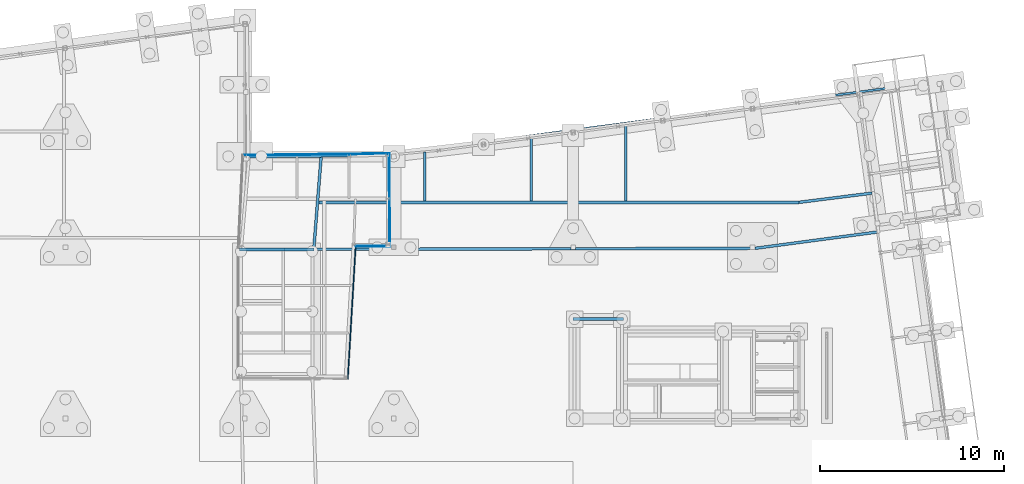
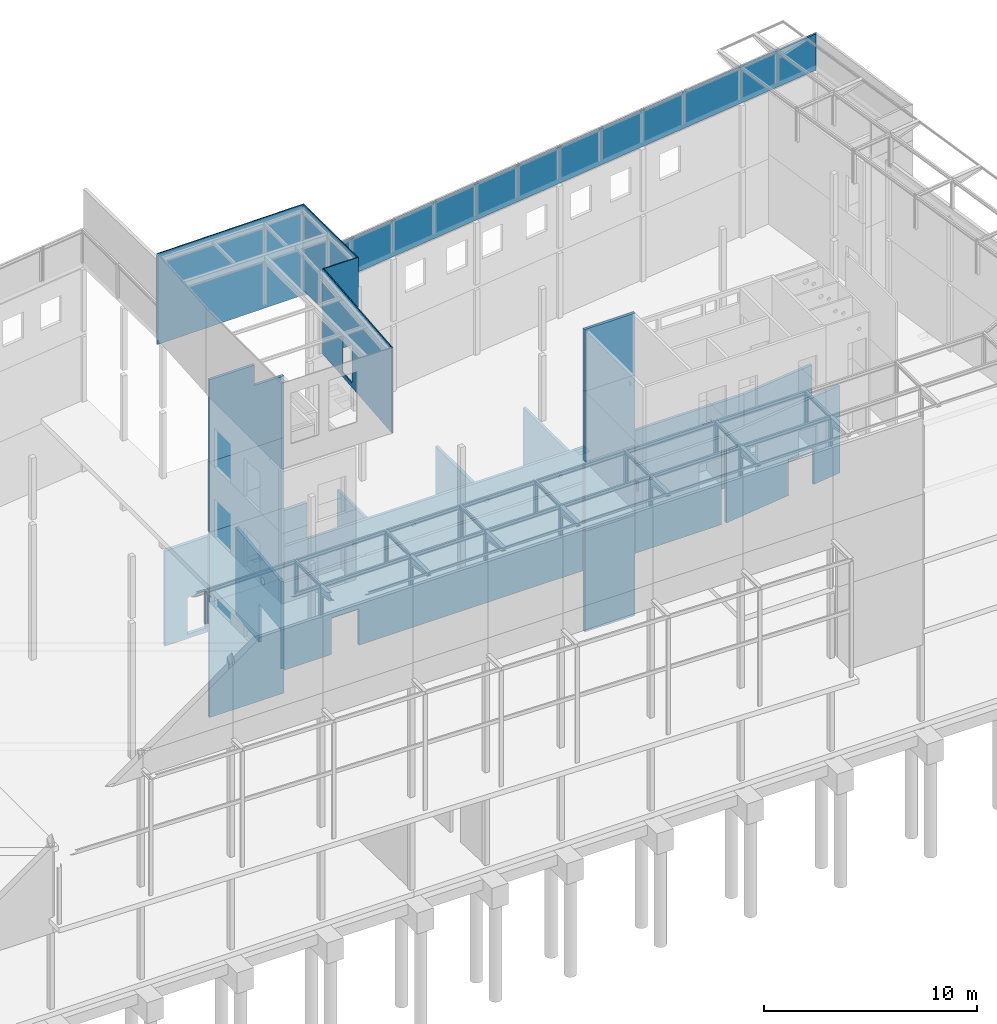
# One storey, part 77 of 82: 22 walls.
"""IFC2X3 building model written with IfcOpenShell, lengths in millimetres."""

from ifc_helpers import new_model, si_unit, frame, frame_2d, origin_with_axes, place, context, subcontext, project, spatial, polyline, rectangle, circle, outline, extrude, boolean, clip, halfspace, material, layer, layer_set, layer_usage, type_object, element, save


model = new_model("IFC2X3")

# Units and contexts
model_context = context("Model", 3, precision=1e-05, world=origin_with_axes())
body_context = subcontext(model_context, "Body", "Model", "MODEL_VIEW")
ifc_project = project(units=[si_unit("LENGTHUNIT", "METRE", prefix="MILLI"), si_unit("AREAUNIT", "SQUARE_METRE"), si_unit("VOLUMEUNIT", "CUBIC_METRE"), si_unit("MASSUNIT", "GRAM", prefix="KILO"), si_unit("TIMEUNIT", "SECOND"), si_unit("PLANEANGLEUNIT", "RADIAN"), si_unit("SOLIDANGLEUNIT", "STERADIAN"), si_unit("THERMODYNAMICTEMPERATUREUNIT", "DEGREE_CELSIUS"), si_unit("LUMINOUSINTENSITYUNIT", "LUMEN")], contexts=[model_context])

# Site, building, storey
site_placement = place(None, origin_with_axes())
site = spatial("IfcSite", under=ifc_project, at=site_placement, Name="Undefined", CompositionType="ELEMENT")
building_placement = place(site_placement, origin_with_axes())
building = spatial("IfcBuilding", under=site, at=building_placement, Name="Undefined", CompositionType="ELEMENT")
storey_placement = place(building_placement, origin_with_axes())
storey = spatial("IfcBuildingStorey", under=building, at=storey_placement, Name="Undefined", CompositionType="ELEMENT", Elevation=0.0)

# Walls
ifc_material_1 = material(Name="CONCRETE/C25/30")
ifc_layer_1 = layer(ifc_material_1, 150.0)
ifc_layer_set_1 = layer_set([ifc_layer_1], Name="Wall: Insitu CONCRETE/C25/30")
ifc_layer_usage_1 = layer_usage(ifc_layer_set_1, "AXIS2", "POSITIVE", -75.0)
wall_type_1 = type_object("IfcWallType", Name="4025*150", PredefinedType="NOTDEFINED")
wall_1_placement = place(storey_placement, frame((49824.9999999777, 14699.9999999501, 9305.0), z_axis=(0.0, 0.0, 1.0), x_axis=(-1.0, 0.0, 0.0)))
element("IfcWallStandardCase", 1, at=wall_1_placement, inside=storey, type_object=wall_type_1, material=ifc_layer_usage_1, Name="VOILE_15CM", ObjectType="4025*150", context=body_context, shape_type="SweptSolid", body=[
    extrude(rectangle(XDim=2725.00000000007, YDim=150.0, at=frame_2d((0.0, 1362.50000000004), x_axis=(0.0, -1.0))), frame((0.0, 0.0, 0.0), z_axis=(0.0, 0.0, 1.0), x_axis=(-2.77555756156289e-17, -1.0, 0.0)), (0.0, 0.0, 1.0), 4025.0),
])
ifc_layer_usage_2 = layer_usage(ifc_layer_set_1, "AXIS2", "POSITIVE", -75.0)
wall_2_placement = place(storey_placement, frame((32998.7356613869, 18490.0686918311, 9305.0), z_axis=(0.0, 0.0, 1.0), x_axis=(-1.0, 0.0, 0.0)))
element("IfcWallStandardCase", 2, at=wall_2_placement, inside=storey, type_object=wall_type_1, material=ifc_layer_usage_2, Name="VOILE_15CM", ObjectType="4025*150", context=body_context, shape_type="SweptSolid", body=[
    extrude(rectangle(XDim=4024.97200000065, YDim=150.0, at=frame_2d((0.0, 2012.48600000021), x_axis=(0.0, -1.0))), frame((0.0, 0.0, 0.0), z_axis=(0.0, 0.0, 1.0), x_axis=(-2.77555756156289e-17, -1.0, 0.0)), (0.0, 0.0, 1.0), 4025.0),
])
ifc_layer_usage_3 = layer_usage(ifc_layer_set_1, "AXIS2", "POSITIVE", -75.0)
wall_type_2 = type_object("IfcWallType", Name="4005*150", PredefinedType="NOTDEFINED")
wall_3_placement = place(storey_placement, frame((49824.9999999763, 14699.9999999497, 5300.0), z_axis=(0.0, 0.0, 1.0), x_axis=(-1.0, 0.0, 0.0)))
element("IfcWallStandardCase", 3, at=wall_3_placement, inside=storey, type_object=wall_type_2, material=ifc_layer_usage_3, Name="VOILE_15CM", ObjectType="4005*150", context=body_context, shape_type="SweptSolid", body=[
    extrude(rectangle(XDim=2725.0, YDim=150.0, at=frame_2d((0.0, 1362.50000000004), x_axis=(0.0, -1.0))), frame((0.0, 0.0, 0.0), z_axis=(0.0, 0.0, 1.0), x_axis=(-2.77555756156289e-17, -1.0, 0.0)), (0.0, 0.0, 1.0), 4005.0),
])
ifc_layer_usage_4 = layer_usage(ifc_layer_set_1, "AXIS2", "POSITIVE", -75.0)
wall_4_placement = place(storey_placement, frame((32998.7356613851, 18490.06869183, 5300.0), z_axis=(0.0, 0.0, 1.0), x_axis=(-1.0, 0.0, 0.0)))
element("IfcWallStandardCase", 4, at=wall_4_placement, inside=storey, type_object=wall_type_2, material=ifc_layer_usage_4, Name="VOILE_15CM", ObjectType="4005*150", context=body_context, shape_type="SweptSolid", body=[
    extrude(rectangle(XDim=4024.97200000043, YDim=150.0, at=frame_2d((0.0, 2012.48600000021), x_axis=(0.0, -1.0))), frame((0.0, 0.0, 0.0), z_axis=(0.0, 0.0, 1.0), x_axis=(-2.77555756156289e-17, -1.0, 0.0)), (0.0, 0.0, 1.0), 4005.0),
])
ifc_material_2 = material(Name="STEEL/Steel_Undefined")
wall_type_3 = type_object("IfcWallType", Name="4900*50", PredefinedType="NOTDEFINED")
wall_5_placement = place(storey_placement, frame((37127.8931325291, 18626.5410397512, 17160.0003814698), z_axis=(0.0, 0.0, 1.0), x_axis=(-0.00504030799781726, 0.999987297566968, 0.0)))
element("IfcWall", 5, at=wall_5_placement, inside=storey, type_object=wall_type_3, material=ifc_material_2, Name="HABILLAGE", ObjectType="4900*50", context=body_context, shape_type="Clipping", body=[
    clip(clip(extrude(rectangle(XDim=5264.90551128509, YDim=50.0, at=frame_2d((0.0, 2546.39852045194), x_axis=(0.0, -1.0))), frame((0.0, 0.0, 0.0), z_axis=(0.0, 0.0, 1.0), x_axis=(-2.77555756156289e-17, -1.0, 0.0)), (0.0, 0.0, 1.0), 4900.0), halfspace(frame((5042.51219915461, 25.0000000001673, 2300.00000000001), z_axis=(-0.704836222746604, -0.709370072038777, 0.0), x_axis=(0.0, 0.0, 1.0)), True)), halfspace(frame((6.32324372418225e-07, -25.0000000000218, 2449.99999999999), z_axis=(0.705354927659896, -0.708854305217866, 0.0), x_axis=(0.0, 0.0, 1.0)), True)),
])
wall_6_placement = place(storey_placement, frame((35297.5675827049, 18651.4973638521, 17160.0003814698), z_axis=(0.0, 0.0, 1.0), x_axis=(0.999999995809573, 9.15469999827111e-05, 0.0)))
element("IfcWall", 6, at=wall_6_placement, inside=storey, type_object=wall_type_3, material=ifc_material_2, Name="HABILLAGE", ObjectType="4900*50", context=body_context, shape_type="Clipping", body=[
    clip(clip(extrude(rectangle(XDim=2068.00932468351, YDim=50.0, at=frame_2d((0.0, 903.319423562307), x_axis=(0.0, -1.0))), frame((0.0, 0.0, 0.0), z_axis=(0.0, 0.0, 1.0), x_axis=(-2.77555756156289e-17, -1.0, 0.0)), (0.0, 0.0, 1.0), 4900.0), halfspace(frame((1855.32295356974, -24.9999999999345, 2450.0), z_axis=(0.70535492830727, 0.708854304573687, 0.0), x_axis=(0.0, 0.0, 1.0)), False)), halfspace(frame((6.32324372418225e-07, -25.0000000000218, 2449.99999999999), z_axis=(0.727754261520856, 0.685837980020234, 0.0), x_axis=(0.0, 0.0, 1.0)), True)),
])
wall_7_placement = place(storey_placement, frame((34846.4547531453, 11437.2462998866, 17160.0003814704), z_axis=(0.0, 0.0, 1.0), x_axis=(0.0591612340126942, 0.998248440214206, 0.0)))
element("IfcWall", 7, at=wall_7_placement, inside=storey, type_object=wall_type_3, material=ifc_material_2, Name="HABILLAGE", ObjectType="4900*50", context=body_context, shape_type="CSG", body=[
    boolean("DIFFERENCE", boolean("DIFFERENCE", boolean("DIFFERENCE", boolean("DIFFERENCE", extrude(rectangle(XDim=7435.97864317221, YDim=50.0, at=frame_2d((0.0, 3625.34775338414), x_axis=(0.0, -1.0))), frame((0.0, 0.0, 0.0), z_axis=(0.0, 0.0, 1.0), x_axis=(-2.77555756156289e-17, -1.0, 0.0)), (0.0, 0.0, 1.0), 4900.0), extrude(outline(polyline([(5.17284206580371e-08, 4.49290382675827e-10), (2100.0, 5.82076609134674e-11), (2100.0, 1000.00000000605), (0.0, 1000.00000000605), (5.17284206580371e-08, 4.49290382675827e-10)])), frame((4199.8558771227, 35.0000000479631, 2358.17256164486), z_axis=(-2.77555756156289e-17, -1.0, 0.0), x_axis=(0.0, -6.50000002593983e-08, -0.999999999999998)), (0.0, 0.0, 1.0), 70.0)), extrude(outline(polyline([(5.17284206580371e-08, 4.49290382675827e-10), (2100.0, 5.82076609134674e-11), (2100.0, 1001.75469970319), (0.0, 1001.75469970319), (5.17284206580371e-08, 4.49290382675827e-10)])), frame((4184.50473266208, 35.0000000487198, 2358.17288207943), z_axis=(-2.77555756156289e-17, -1.0, 0.0), x_axis=(0.0, -6.50000002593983e-08, -0.999999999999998)), (0.0, 0.0, 1.0), 70.0)), halfspace(frame((7203.34718817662, -25.0000000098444, 2450.0), z_axis=(0.727754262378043, -0.685837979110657, 0.0), x_axis=(0.0, 0.0, 1.0)), False)), halfspace(frame((6.32324372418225e-07, -25.0000000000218, 2449.99999999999), z_axis=(0.724445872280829, -0.689331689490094, 0.0), x_axis=(0.0, 0.0, 1.0)), True)),
])
wall_type_4 = type_object("IfcWallType", Name="2071*115", PredefinedType="NOTDEFINED")
wall_8_placement = place(storey_placement, frame((37202.5356408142, 23663.2130132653, 16860.000000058), z_axis=(0.0, 0.0, 1.0), x_axis=(0.99128603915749, 0.131726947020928, 0.0)))
element("IfcWall", 8, at=wall_8_placement, inside=storey, type_object=wall_type_4, material=ifc_material_1, Name="PANNEAU_FACADE", ObjectType="2071*115", context=body_context, shape_type="Clipping", body=[
    clip(clip(extrude(rectangle(XDim=30554.4779711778, YDim=115.0, at=frame_2d((0.0, 15057.6086916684), x_axis=(0.0, -1.0))), frame((0.0, 0.0, 0.0), z_axis=(0.0, 0.0, 1.0), x_axis=(-2.77555756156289e-17, -1.0, 0.0)), (0.0, 0.0, 1.0), 2071.0), halfspace(frame((30248.3809088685, 57.4999999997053, 1035.49999994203), z_axis=(-0.706948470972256, 0.707265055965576, 0.0), x_axis=(0.0, 0.0, 1.0)), True)), halfspace(frame((-69.2190223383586, 50.2411238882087, 319.999999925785), z_axis=(0.991937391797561, -0.126728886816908, 0.0), x_axis=(0.0, -6.50000002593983e-08, -0.999999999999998)), True)),
])
wall_type_5 = type_object("IfcWallType", Name="5200*50", PredefinedType="NOTDEFINED")
wall_9_placement = place(storey_placement, frame((37127.5096617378, 23694.4378189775, 16860.0003814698), z_axis=(0.0, 0.0, 1.0), x_axis=(-0.999934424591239, -0.0114519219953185, 0.0)))
element("IfcWall", 9, at=wall_9_placement, inside=storey, type_object=wall_type_5, material=ifc_material_2, Name="HABILLAGE", ObjectType="5200*50", context=body_context, shape_type="Clipping", body=[
    clip(clip(extrude(rectangle(XDim=8175.83211161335, YDim=50.0, at=frame_2d((0.0, 4004.68443752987), x_axis=(0.0, -1.0))), frame((0.0, 0.0, 0.0), z_axis=(0.0, 0.0, 1.0), x_axis=(-2.77555756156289e-17, -1.0, 0.0)), (0.0, 0.0, 1.0), 5200.0), halfspace(frame((7960.66597256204, 25.0000000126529, 2769.99961851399), z_axis=(-0.72801569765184, -0.685560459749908, 0.0), x_axis=(0.0, 0.0, 1.0)), True)), halfspace(frame((50.3216241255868, 25.0000000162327, 2600.0), z_axis=(-0.704836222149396, 0.709370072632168, 0.0), x_axis=(0.0, 0.0, 1.0)), False)),
])
ifc_layer_usage_5 = layer_usage(ifc_layer_set_1, "AXIS2", "POSITIVE", -75.0)
wall_type_6 = type_object("IfcWallType", Name="3530*150", PredefinedType="NOTDEFINED")
wall_10_placement = place(storey_placement, frame((49824.9999999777, 14699.9999999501, 13330.0), z_axis=(0.0, 0.0, 1.0), x_axis=(-1.0, 0.0, 0.0)))
element("IfcWallStandardCase", 10, at=wall_10_placement, inside=storey, type_object=wall_type_6, material=ifc_layer_usage_5, Name="VOILE_15CM", ObjectType="3530*150", context=body_context, shape_type="SweptSolid", body=[
    extrude(rectangle(XDim=2725.00000000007, YDim=150.0, at=frame_2d((0.0, 1362.50000000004), x_axis=(0.0, -1.0))), frame((0.0, 0.0, 0.0), z_axis=(0.0, 0.0, 1.0), x_axis=(-2.77555756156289e-17, -1.0, 0.0)), (0.0, 0.0, 1.0), 3530.0),
])
ifc_layer_usage_6 = layer_usage(ifc_layer_set_1, "AXIS2", "POSITIVE", -75.0)
wall_type_7 = type_object("IfcWallType", Name="4700*150", PredefinedType="NOTDEFINED")
wall_11_placement = place(storey_placement, frame((32998.7356613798, 18490.0686917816, 13330.0), z_axis=(0.0, 0.0, 1.0), x_axis=(-1.0, 0.0, 0.0)))
element("IfcWallStandardCase", 11, at=wall_11_placement, inside=storey, type_object=wall_type_7, material=ifc_layer_usage_6, Name="VOILE_15CM", ObjectType="4700*150", context=body_context, shape_type="CSG", body=[
    boolean("DIFFERENCE", extrude(rectangle(XDim=4024.97200000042, YDim=150.0, at=frame_2d((0.0, 2012.48600000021), x_axis=(0.0, -1.0))), frame((0.0, 0.0, 0.0), z_axis=(0.0, 0.0, 1.0), x_axis=(-2.77555756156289e-17, -1.0, 0.0)), (0.0, 0.0, 1.0), 4700.0), extrude(outline(polyline([(5.17284206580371e-08, 4.49290382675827e-10), (1579.97204589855, 0.0), (1579.97204589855, 1470.0), (1.16415321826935e-10, 1470.0), (5.17284206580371e-08, 4.49290382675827e-10)])), frame((4.94765117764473e-10, -77.4999999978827, 5000.0), z_axis=(0.0, 1.0, 0.0), x_axis=(1.0, 0.0, 0.0)), (0.0, 0.0, 1.0), 155.0)),
])
ifc_material_3 = material(Name="CONCRETE/BRIQUE")
ifc_layer_2 = layer(ifc_material_3, 150.0)
ifc_layer_set_2 = layer_set([ifc_layer_2], Name="Wall: Insitu CONCRETE/BRIQUE")
ifc_layer_usage_7 = layer_usage(ifc_layer_set_2, "AXIS2", "POSITIVE", -75.0)
wall_type_8 = type_object("IfcWallType", Name="5000*150", PredefinedType="NOTDEFINED")
wall_12_placement = place(storey_placement, frame((56728.2219807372, 18545.1274558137, 0.0), z_axis=(0.0, 0.0, 1.0), x_axis=(-0.999997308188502, -0.00232026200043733, 0.0)))
element("IfcWallStandardCase", 12, at=wall_12_placement, inside=storey, type_object=wall_type_8, material=ifc_layer_usage_7, Name="MACONNERIE_15CM", ObjectType="5000*150", context=body_context, shape_type="CSG", body=[
    boolean("DIFFERENCE", boolean("DIFFERENCE", boolean("DIFFERENCE", boolean("DIFFERENCE", boolean("DIFFERENCE", extrude(rectangle(XDim=23721.3266660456, YDim=150.0, at=frame_2d((0.0, 11860.6633330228), x_axis=(0.0, -1.0))), frame((0.0, 0.0, 0.0), z_axis=(0.0, 0.0, 1.0), x_axis=(-2.77555756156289e-17, -1.0, 0.0)), (0.0, 0.0, 1.0), 5000.0), extrude(rectangle(XDim=260.0, YDim=260.0, at=frame_2d((5.17284206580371e-08, 4.49290382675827e-10), x_axis=(1.0, 0.0))), frame((9628.07027093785, -77.2122754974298, 16200.0), z_axis=(0.0, -6.50000002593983e-08, -0.999999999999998), x_axis=(0.999997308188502, -0.00232026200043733, 0.0)), (0.0, 0.0, 1.0), 16650.0)), extrude(rectangle(XDim=260.0, YDim=260.0, at=frame_2d((5.17284206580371e-08, 4.49290382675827e-10), x_axis=(1.0, 0.0))), frame((19378.0440257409, -99.834830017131, 16200.0), z_axis=(0.0, -6.50000002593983e-08, -0.999999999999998), x_axis=(0.999997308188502, -0.00232026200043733, 0.0)), (0.0, 0.0, 1.0), 16650.0)), extrude(rectangle(XDim=550.0, YDim=550.0, at=frame_2d((5.17284206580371e-08, 4.49290382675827e-10), x_axis=(1.0, 0.0))), frame((4793.36477660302, -85.0000000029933, 3800.0004882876), z_axis=(0.0, 1.0, 0.0), x_axis=(-1.0, 0.0, 0.0)), (0.0, 0.0, 1.0), 170.0)), extrude(rectangle(XDim=200.0, YDim=150.0, at=frame_2d((5.17284206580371e-08, 4.49290382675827e-10), x_axis=(1.0, 0.0))), frame((3826.4474679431, -85.0000000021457, 4005.1396484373), z_axis=(0.0, 1.0, 0.0), x_axis=(-1.0, 0.0, 0.0)), (0.0, 0.0, 1.0), 170.0)), extrude(outline(polyline([(5.17284206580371e-08, 4.49290382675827e-10), (2100.0, 5.82076609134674e-11), (2100.0, 1499.99999999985), (0.0, 1499.99999999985), (5.17284206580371e-08, 4.49290382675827e-10)])), frame((21145.6558897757, -84.9999999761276, 2100.0), z_axis=(0.0, 1.0, 0.0), x_axis=(0.0, -6.50000002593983e-08, -0.999999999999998)), (0.0, 0.0, 1.0), 170.0)),
])
wall_13_placement = place(storey_placement, frame((39036.2923197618, 23778.1493548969, 0.0), z_axis=(0.0, 0.0, 1.0), x_axis=(-2.77555756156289e-17, -1.0, 0.0)))
element("IfcWall", 13, at=wall_13_placement, inside=storey, type_object=wall_type_8, material=ifc_material_3, Name="MACONNERIE_15CM", ObjectType="5000*150", context=body_context, shape_type="Clipping", body=[
    clip(extrude(rectangle(XDim=2685.11329638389, YDim=150.0, at=frame_2d((0.0, 1315.46525053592), x_axis=(0.0, -1.0))), frame((0.0, 0.0, 0.0), z_axis=(0.0, 0.0, 1.0), x_axis=(-2.77555756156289e-17, -1.0, 0.0)), (0.0, 0.0, 1.0), 5000.0), halfspace(frame((-5.16538901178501, -3.81696736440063e-08, 1500.0), z_axis=(0.99128603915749, 0.131726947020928, 0.0), x_axis=(0.131726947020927, -0.99128603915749, 0.0)), True)),
])
wall_14_placement = place(storey_placement, frame((33396.4029153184, 23489.8034987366, 0.0), z_axis=(0.0, 0.0, 1.0), x_axis=(-0.0792403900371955, -0.996855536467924, 0.0)))
element("IfcWall", 14, at=wall_14_placement, inside=storey, type_object=wall_type_8, material=ifc_material_3, Name="MACONNERIE_15CM", ObjectType="5000*150", context=body_context, shape_type="CSG", body=[
    boolean("DIFFERENCE", boolean("DIFFERENCE", boolean("DIFFERENCE", boolean("DIFFERENCE", extrude(rectangle(XDim=5005.53085666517, YDim=150.0, at=frame_2d((0.0, 2466.00976478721), x_axis=(0.0, -1.0))), frame((0.0, 0.0, 0.0), z_axis=(0.0, 0.0, 1.0), x_axis=(-2.77555756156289e-17, -1.0, 0.0)), (0.0, 0.0, 1.0), 5000.0), extrude(circle(Radius=200.0, at=frame_2d((5.17284206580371e-08, 4.49290382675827e-10), x_axis=(1.0, 0.0))), frame((2972.26234162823, -85.0000000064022, 3799.99934387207), z_axis=(0.0, 1.0, 0.0), x_axis=(-1.0, 0.0, 0.0)), (0.0, 0.0, 1.0), 170.0)), extrude(outline(polyline([(5.17284206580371e-08, 4.49290382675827e-10), (2220.0, -4.22005541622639e-10), (2220.0, 2350.00000000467), (0.0, 2350.00000000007), (5.17284206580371e-08, 4.49290382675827e-10)])), frame((2524.49374413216, 84.9999999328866, 2220.0), z_axis=(-2.77555756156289e-17, -1.0, 0.0), x_axis=(0.0, -6.50000002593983e-08, -0.999999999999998)), (0.0, 0.0, 1.0), 170.0)), halfspace(frame((4940.25468077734, -2.78996594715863e-08, 1500.0), z_axis=(-0.996668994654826, -0.0815531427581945, 0.0), x_axis=(-0.0815531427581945, 0.996668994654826, 0.0)), True)), halfspace(frame((-8.23515119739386, -3.56776581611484e-08, 1500.0), z_axis=(0.995882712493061, 0.0906511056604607, 0.0), x_axis=(0.0906511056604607, -0.995882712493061, 0.0)), True)),
])
wall_15_placement = place(storey_placement, frame((59369.4327854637, 21045.1274562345, 0.0), z_axis=(0.0, 0.0, 1.0), x_axis=(-1.0, 0.0, 0.0)))
solid = boolean("DIFFERENCE", boolean("DIFFERENCE", boolean("DIFFERENCE", boolean("DIFFERENCE", boolean("DIFFERENCE", boolean("DIFFERENCE", boolean("DIFFERENCE", boolean("DIFFERENCE", extrude(rectangle(XDim=26134.3828975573, YDim=150.0, at=frame_2d((0.0, 13048.4178930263), x_axis=(0.0, -1.0))), frame((0.0, 0.0, 0.0), z_axis=(0.0, 0.0, 1.0), x_axis=(-2.77555756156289e-17, -1.0, 0.0)), (0.0, 0.0, 1.0), 5000.0), extrude(circle(Radius=100.0, at=frame_2d((5.17284206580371e-08, 4.49290382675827e-10), x_axis=(1.0, 0.0))), frame((9938.72139058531, -85.0, 3799.99953460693), z_axis=(0.0, 1.0, 0.0), x_axis=(-1.0, 0.0, 0.0)), (0.0, 0.0, 1.0), 170.0)), extrude(circle(Radius=100.0, at=frame_2d((5.17284206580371e-08, 4.49290382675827e-10), x_axis=(1.0, 0.0))), frame((13903.8684089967, -85.0, 3799.99953460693), z_axis=(0.0, 1.0, 0.0), x_axis=(-1.0, 0.0, 0.0)), (0.0, 0.0, 1.0), 170.0)), extrude(circle(Radius=100.0, at=frame_2d((5.17284206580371e-08, 4.49290382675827e-10), x_axis=(1.0, 0.0))), frame((17868.2467657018, -85.0, 3799.99953460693), z_axis=(0.0, 1.0, 0.0), x_axis=(-1.0, 0.0, 0.0)), (0.0, 0.0, 1.0), 170.0)), extrude(circle(Radius=100.0, at=frame_2d((5.17284206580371e-08, 4.49290382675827e-10), x_axis=(1.0, 0.0))), frame((21076.1439519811, -85.0, 3799.99953460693), z_axis=(0.0, 1.0, 0.0), x_axis=(-1.0, 0.0, 0.0)), (0.0, 0.0, 1.0), 170.0)), extrude(circle(Radius=100.0, at=frame_2d((5.17284206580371e-08, 4.49290382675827e-10), x_axis=(1.0, 0.0))), frame((25076.1439521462, -85.0, 3799.99953460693), z_axis=(0.0, 1.0, 0.0), x_axis=(-1.0, 0.0, 0.0)), (0.0, 0.0, 1.0), 170.0)), extrude(rectangle(XDim=500.0, YDim=150.0, at=frame_2d((5.17284206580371e-08, 4.49290382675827e-10), x_axis=(1.0, 0.0))), frame((2000.4365247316, -85.0, 4140.00045013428), z_axis=(0.0, 1.0, 0.0), x_axis=(-1.0, 0.0, 0.0)), (0.0, 0.0, 1.0), 170.0)), extrude(outline(polyline([(5.17284206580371e-08, 4.49290382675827e-10), (2100.0, 5.82076609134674e-11), (2100.0, 1499.99999999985), (0.0, 1499.99999999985), (5.17284206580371e-08, 4.49290382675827e-10)])), frame((7751.32548596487, -84.9999999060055, 2100.0), z_axis=(0.0, 1.0, 0.0), x_axis=(0.0, -6.50000002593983e-08, -0.999999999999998)), (0.0, 0.0, 1.0), 170.0)), extrude(outline(polyline([(5.17284206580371e-08, 4.49290382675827e-10), (2100.0, 5.82076609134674e-11), (2100.0, 1499.99999999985), (0.0, 1499.99999999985), (5.17284206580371e-08, 4.49290382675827e-10)])), frame((12830.5693440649, -84.9999999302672, 2100.0), z_axis=(0.0, 1.0, 0.0), x_axis=(0.0, -6.50000002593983e-08, -0.999999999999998)), (0.0, 0.0, 1.0), 170.0))
element("IfcWall", 15, at=wall_15_placement, inside=storey, type_object=wall_type_8, material=ifc_material_3, Name="MACONNERIE_15CM", ObjectType="5000*150", context=body_context, shape_type="CSG", body=[
    boolean("DIFFERENCE", boolean("DIFFERENCE", boolean("DIFFERENCE", boolean("DIFFERENCE", boolean("DIFFERENCE", solid, extrude(outline(polyline([(5.17284206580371e-08, 4.49290382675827e-10), (2100.0, 5.82076609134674e-11), (2100.0, 1499.99999999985), (0.0, 1499.99999999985), (5.17284206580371e-08, 4.49290382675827e-10)])), frame((17930.4605349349, -84.9999999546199, 2100.0), z_axis=(0.0, 1.0, 0.0), x_axis=(0.0, -6.50000002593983e-08, -0.999999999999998)), (0.0, 0.0, 1.0), 170.0)), extrude(outline(polyline([(5.17284206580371e-08, 4.49290382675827e-10), (2100.0, 5.82076609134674e-11), (2100.0, 1499.99999999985), (0.0, 1499.99999999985), (5.17284206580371e-08, 4.49290382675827e-10)])), frame((24303.2310654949, -84.9999999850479, 2100.0), z_axis=(0.0, 1.0, 0.0), x_axis=(0.0, -6.50000002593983e-08, -0.999999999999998)), (0.0, 0.0, 1.0), 170.0)), extrude(rectangle(XDim=550.0, YDim=550.0, at=frame_2d((5.17284206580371e-08, 4.49290382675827e-10), x_axis=(1.0, 0.0))), frame((7434.43748530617, -85.0, 3800.00048828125), z_axis=(0.0, 1.0, 0.0), x_axis=(-1.0, 0.0, 0.0)), (0.0, 0.0, 1.0), 170.0)), halfspace(frame((26092.1214323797, 2.39670043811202e-08, 1500.0), z_axis=(-0.996855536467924, 0.0792403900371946, 0.0), x_axis=(0.0792403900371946, 0.996855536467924, 0.0)), True)), halfspace(frame((9.42890030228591, -75.0000000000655, 2500.0), z_axis=(0.998030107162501, 0.0627367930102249, 0.0), x_axis=(0.0, 0.0, 1.0)), True)),
])
wall_16_placement = place(storey_placement, frame((44817.5454916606, 24546.3904828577, 0.0), z_axis=(0.0, 0.0, 1.0), x_axis=(-2.77555756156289e-17, -1.0, 0.0)))
element("IfcWall", 16, at=wall_16_placement, inside=storey, type_object=wall_type_8, material=ifc_material_3, Name="MACONNERIE_15CM", ObjectType="5000*150", context=body_context, shape_type="Clipping", body=[
    clip(extrude(rectangle(XDim=3453.35455088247, YDim=150.0, at=frame_2d((0.0, 1699.58575124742), x_axis=(0.0, -1.0))), frame((0.0, 0.0, 0.0), z_axis=(0.0, 0.0, 1.0), x_axis=(-2.77555756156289e-17, -1.0, 0.0)), (0.0, 0.0, 1.0), 5000.0), halfspace(frame((-5.16551554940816, -3.93920345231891e-08, 1500.0), z_axis=(0.99128603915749, 0.131726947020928, 0.0), x_axis=(0.131726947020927, -0.99128603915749, 0.0)), True)),
])
wall_17_placement = place(storey_placement, frame((49958.7313480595, 25229.5764698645, 0.0), z_axis=(0.0, 0.0, 1.0), x_axis=(-2.77555756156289e-17, -1.0, 0.0)))
element("IfcWall", 17, at=wall_17_placement, inside=storey, type_object=wall_type_8, material=ifc_material_3, Name="MACONNERIE_15CM", ObjectType="5000*150", context=body_context, shape_type="Clipping", body=[
    clip(extrude(rectangle(XDim=4136.54052362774, YDim=150.0, at=frame_2d((0.0, 2041.17875188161), x_axis=(0.0, -1.0))), frame((0.0, 0.0, 0.0), z_axis=(0.0, 0.0, 1.0), x_axis=(-2.77555756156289e-17, -1.0, 0.0)), (0.0, 0.0, 1.0), 5000.0), halfspace(frame((-5.16551554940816, -3.93920345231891e-08, 1500.0), z_axis=(0.99128603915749, 0.131726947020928, 0.0), x_axis=(0.131726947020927, -0.99128603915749, 0.0)), True)),
])
wall_18_placement = place(storey_placement, frame((63771.7512588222, 19451.8790015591, 0.0), z_axis=(0.0, 0.0, 1.0), x_axis=(-0.99121555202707, -0.132256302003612, 0.0)))
element("IfcWall", 18, at=wall_18_placement, inside=storey, type_object=wall_type_8, material=ifc_material_3, Name="MACONNERIE_15CM", ObjectType="5000*150", context=body_context, shape_type="CSG", body=[
    boolean("DIFFERENCE", boolean("DIFFERENCE", boolean("DIFFERENCE", extrude(rectangle(XDim=6767.13971086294, YDim=150.0, at=frame_2d((0.0, 3533.49767660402), x_axis=(0.0, -1.0))), frame((0.0, 0.0, 0.0), z_axis=(0.0, 0.0, 1.0), x_axis=(-2.77555756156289e-17, -1.0, 0.0)), (0.0, 0.0, 1.0), 5000.0), extrude(outline(polyline([(5.17284206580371e-08, 4.49290382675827e-10), (2100.0, 5.82076609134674e-11), (2100.0, 1499.99999999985), (0.0, 1499.99999999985), (5.17284206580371e-08, 4.49290382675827e-10)])), frame((3184.49123508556, -84.9999998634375, 2100.0), z_axis=(0.0, 1.0, 0.0), x_axis=(0.0, -6.50000002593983e-08, -0.999999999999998)), (0.0, 0.0, 1.0), 170.0)), extrude(rectangle(XDim=500.0, YDim=150.0, at=frame_2d((5.17284206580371e-08, 4.49290382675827e-10), x_axis=(1.0, 0.0))), frame((6459.50075747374, -85.0000000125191, 4139.9996872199), z_axis=(0.0, 1.0, 0.0), x_axis=(-1.0, 0.0, 0.0)), (0.0, 0.0, 1.0), 170.0)), halfspace(frame((6851.94356788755, 5.72053977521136e-08, 1500.0), z_axis=(-0.991215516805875, 0.132256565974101, 0.0), x_axis=(0.132256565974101, 0.991215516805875, 0.0)), True)),
])
wall_19_placement = place(storey_placement, frame((63343.4354740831, 21547.3211046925, 0.0), z_axis=(0.0, 0.0, 1.0), x_axis=(-0.992128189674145, -0.125226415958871, 0.0)))
element("IfcWall", 19, at=wall_19_placement, inside=storey, type_object=wall_type_8, material=ifc_material_3, Name="MACONNERIE_15CM", ObjectType="5000*150", context=body_context, shape_type="Clipping", body=[
    clip(clip(extrude(rectangle(XDim=4155.68853263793, YDim=150.0, at=frame_2d((0.0, 2005.37253925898), x_axis=(0.0, -1.0))), frame((0.0, 0.0, 0.0), z_axis=(0.0, 0.0, 1.0), x_axis=(-2.77555756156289e-17, -1.0, 0.0)), (0.0, 0.0, 1.0), 5000.0), halfspace(frame((4005.57070052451, -75.000000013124, 2500.0), z_axis=(0.998030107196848, -0.0627367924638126, 0.0), x_axis=(0.0, 0.0, 1.0)), False)), halfspace(frame((0.459831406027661, 6.69224391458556e-08, 1500.0), z_axis=(0.999981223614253, 0.00612800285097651, 0.0), x_axis=(0.00612800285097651, -0.999981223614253, 0.0)), True)),
])
ifc_layer_usage_8 = layer_usage(ifc_layer_set_1, "AXIS2", "POSITIVE", -75.0)
wall_type_9 = type_object("IfcWallType", Name="5750*150", PredefinedType="NOTDEFINED")
wall_20_placement = place(storey_placement, frame((49824.9999999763, 14699.9999999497, -450.0), z_axis=(0.0, 0.0, 1.0), x_axis=(-1.0, 0.0, 0.0)))
element("IfcWallStandardCase", 20, at=wall_20_placement, inside=storey, type_object=wall_type_9, material=ifc_layer_usage_8, Name="VOILE_15CM", ObjectType="5750*150", context=body_context, shape_type="SweptSolid", body=[
    extrude(rectangle(XDim=2725.0, YDim=150.0, at=frame_2d((0.0, 1362.50000000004), x_axis=(0.0, -1.0))), frame((0.0, 0.0, 0.0), z_axis=(0.0, 0.0, 1.0), x_axis=(-2.77555756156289e-17, -1.0, 0.0)), (0.0, 0.0, 1.0), 5750.0),
])
ifc_layer_usage_9 = layer_usage(ifc_layer_set_1, "AXIS2", "POSITIVE", -75.0)
wall_type_10 = type_object("IfcWallType", Name="6600*150", PredefinedType="NOTDEFINED")
wall_21_placement = place(storey_placement, frame((32998.7356613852, 18490.0686918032, -1300.0), z_axis=(0.0, 0.0, 1.0), x_axis=(-1.0, 0.0, 0.0)))
element("IfcWallStandardCase", 21, at=wall_21_placement, inside=storey, type_object=wall_type_10, material=ifc_layer_usage_9, Name="VOILE_15CM", ObjectType="6600*150", context=body_context, shape_type="SweptSolid", body=[
    extrude(rectangle(XDim=4024.97200000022, YDim=150.0, at=frame_2d((0.0, 2012.48600000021), x_axis=(0.0, -1.0))), frame((0.0, 0.0, 0.0), z_axis=(0.0, 0.0, 1.0), x_axis=(-2.77555756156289e-17, -1.0, 0.0)), (0.0, 0.0, 1.0), 6600.0),
])
wall_type_11 = type_object("IfcWallType", Name="5450*180", PredefinedType="NOTDEFINED")
wall_22_placement = place(storey_placement, frame((29354.87832692, 23541.7249239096, -450.0), z_axis=(0.0, 0.0, 1.0), x_axis=(0.999934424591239, 0.0114519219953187, 0.0)))
element("IfcWall", 22, at=wall_22_placement, inside=storey, type_object=wall_type_11, material=ifc_material_1, Name="PANNEAU_FACADE", ObjectType="5450*180", context=body_context, shape_type="CSG", body=[
    boolean("DIFFERENCE", boolean("DIFFERENCE", boolean("DIFFERENCE", boolean("DIFFERENCE", boolean("DIFFERENCE", extrude(rectangle(XDim=7800.85493430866, YDim=180.0, at=frame_2d((0.0, 3973.90644379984), x_axis=(0.0, -1.0))), frame((0.0, 0.0, 0.0), z_axis=(0.0, 0.0, 1.0), x_axis=(-2.77555756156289e-17, -1.0, 0.0)), (0.0, 0.0, 1.0), 5450.0), extrude(rectangle(XDim=260.0, YDim=260.0, at=frame_2d((5.17284206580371e-08, 4.49290382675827e-10), x_axis=(1.0, 0.0))), frame((7994.13323372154, -89.2433691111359, 16650.0), z_axis=(0.0, -6.50000002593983e-08, -0.999999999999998), x_axis=(-0.120366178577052, 0.992729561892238, -4.16340138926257e-08)), (0.0, 0.0, 1.0), 16650.0)), extrude(rectangle(XDim=265.0, YDim=265.0, at=frame_2d((5.17284206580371e-08, 4.49290382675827e-10), x_axis=(1.0, 0.0))), frame((-14.9949274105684, -105.040765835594, 5450.0), z_axis=(0.0, -6.50000002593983e-08, -0.999999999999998), x_axis=(-0.000331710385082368, 0.999999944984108, -4.19970838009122e-08)), (0.0, 0.0, 1.0), 5450.0)), extrude(outline(polyline([(5.17284206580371e-08, 4.49290382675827e-10), (2100.0, 5.82076609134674e-11), (2100.0, 1000.00000000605), (0.0, 1000.00000000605), (5.17284206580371e-08, 4.49290382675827e-10)])), frame((2350.68084402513, -100.000000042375, 2355.0), z_axis=(0.0, 1.0, 0.0), x_axis=(0.0, -6.50000002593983e-08, -0.999999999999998)), (0.0, 0.0, 1.0), 200.0)), halfspace(frame((7852.40641485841, 90.0000000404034, 7452.50000005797), z_axis=(-0.998180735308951, -0.0602927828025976, 0.0), x_axis=(0.0, 0.0, 1.0)), True)), halfspace(frame((179.940383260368, 90.0000000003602, 2725.0), z_axis=(-0.707224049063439, 0.706989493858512, 0.0), x_axis=(0.0, 0.0, 1.0)), False)),
])

save(model, "model.ifc")
